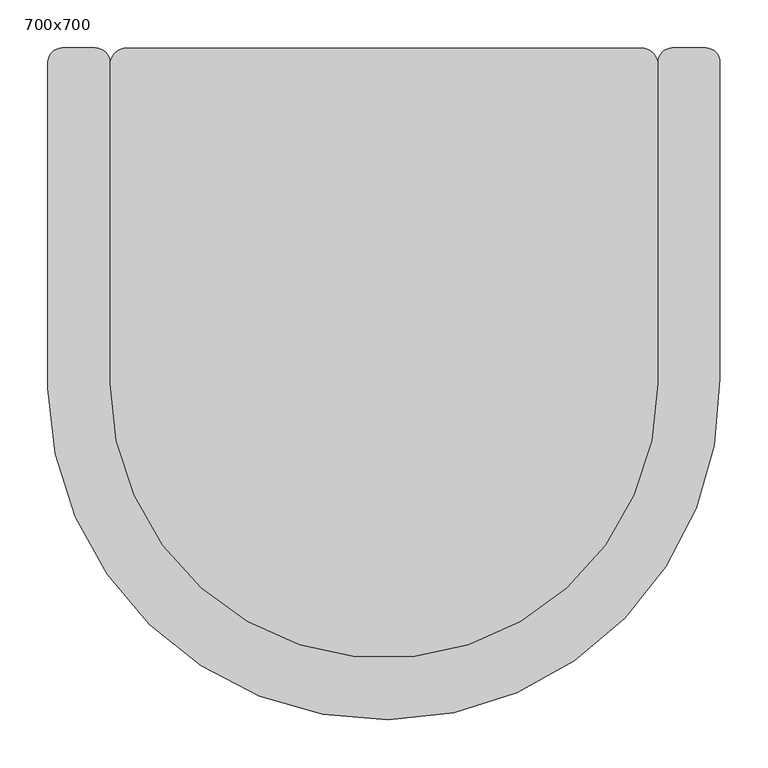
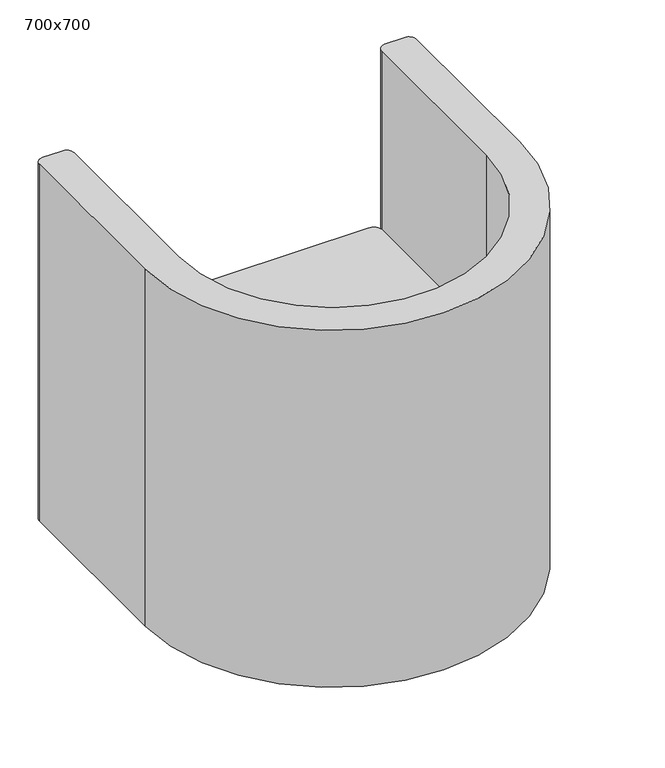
"""IFC4 building model written with IfcOpenShell, lengths in millimetres: furniture geometry, Fu_кресло_LEG : 700x700."""

from ifc_helpers import new_model, si_unit, point, frame_2d, origin, origin_with_axes, place, context, project, spatial, polyline, circle_curve, trimmed, segment, composite_curve, outline, extrude, source, transform, mapped, element, save


def furniture_700x700_84888460(model_context):
    return source(origin(), model_context, "Body", "SweptSolid", [
        extrude(outline(composite_curve([segment(trimmed(circle_curve(frame_2d((114.3, -199.8828801)), 350.0316004), [point((464.3, -195.1795563))], [point((-235.7, -204.5862038))], False, "CARTESIAN"), True, "CONTINUOUS"), segment(polyline([(-235.7, -204.5862038), (-235.7, 135.0736387)]), True, "CONTINUOUS"), segment(trimmed(circle_curve(frame_2d((-220.7, 135.0736387)), 15.0), [point((-235.7, 135.0736387))], [point((-220.7, 150.0736387))], False, "CARTESIAN"), True, "CONTINUOUS"), segment(polyline([(-220.7, 150.0736387), (-186.2716158, 150.0736387)]), True, "CONTINUOUS"), segment(trimmed(circle_curve(frame_2d((-186.2716158, 135.0736387)), 15.0), [point((-186.2716158, 150.0736387))], [point((-171.2716158, 135.0736387))], False, "CARTESIAN"), True, "CONTINUOUS"), segment(polyline([(-171.2716158, 135.0736387), (-171.2716158, -199.9263613)]), True, "CONTINUOUS"), segment(trimmed(circle_curve(frame_2d((114.3, -199.9263613)), 285.5716158), [point((-171.2716158, -199.9263613))], [point((399.8716158, -199.9263613))], True, "CARTESIAN"), True, "CONTINUOUS"), segment(polyline([(399.8716158, -199.9263613), (399.8716158, 135.0736387)]), True, "CONTINUOUS"), segment(trimmed(circle_curve(frame_2d((414.8716158, 135.0736387)), 15.0), [point((399.8716158, 135.0736387))], [point((414.8716158, 150.0736387))], False, "CARTESIAN"), True, "CONTINUOUS"), segment(polyline([(414.8716158, 150.0736387), (449.3, 150.0736387)]), True, "CONTINUOUS"), segment(trimmed(circle_curve(frame_2d((449.3, 135.0736387)), 15.0), [point((449.3, 150.0736387))], [point((464.3, 135.0736387))], False, "CARTESIAN"), True, "CONTINUOUS"), segment(polyline([(464.3, 135.0736387), (464.3, -195.1795563)]), True, "CONTINUOUS")], self_intersect=False)), origin_with_axes(), (0.0, 0.0, 1.0), 700.0),
        extrude(outline(composite_curve([segment(trimmed(circle_curve(frame_2d((-153.2716158, 132.0736387)), 18.0), [point((-171.2716158, 132.0736387))], [point((-153.2716158, 150.0736387))], False, "CARTESIAN"), True, "CONTINUOUS"), segment(polyline([(-153.2716158, 150.0736387), (381.8716158, 150.0736387)]), True, "CONTINUOUS"), segment(trimmed(circle_curve(frame_2d((381.8716158, 132.0736387)), 18.0), [point((381.8716158, 150.0736387))], [point((399.8716158, 132.0736387))], False, "CARTESIAN"), True, "CONTINUOUS"), segment(polyline([(399.8716158, 132.0736387), (399.8716158, -199.9263613)]), True, "CONTINUOUS"), segment(trimmed(circle_curve(frame_2d((114.3, -199.9263613)), 285.5716158), [point((399.8716158, -199.9263613))], [point((-171.2716158, -199.9263613))], False, "CARTESIAN"), True, "CONTINUOUS"), segment(polyline([(-171.2716158, -199.9263613), (-171.2716158, 132.0736387)]), True, "CONTINUOUS")], self_intersect=False)), origin_with_axes(), (0.0, 0.0, 1.0), 350.0),
    ])


if __name__ == "__main__":
    model = new_model("IFC4")
    model_context = context("Model", 3, world=origin())
    ifc_project = project(units=[si_unit("LENGTHUNIT", "METRE", prefix="MILLI")], contexts=[model_context])
    site = spatial("IfcSite", under=ifc_project)
    building = spatial("IfcBuilding", under=site)
    placement = place(None, origin())
    furniture_700x700_shape = furniture_700x700_84888460(model_context)
    element("IfcFurniture", 1, ObjectType="Fu_кресло_LEG : 700x700", at=placement, inside=building, context=model_context, shape_type="MappedRepresentation", body=[
        mapped(furniture_700x700_shape, transform((0.0, 0.0, 0.0), x_axis=(1.0, 0.0, 0.0), y_axis=(0.0, 1.0, 0.0), z_axis=(0.0, 0.0, 1.0))),
    ])
    save(model, "model.ifc")
